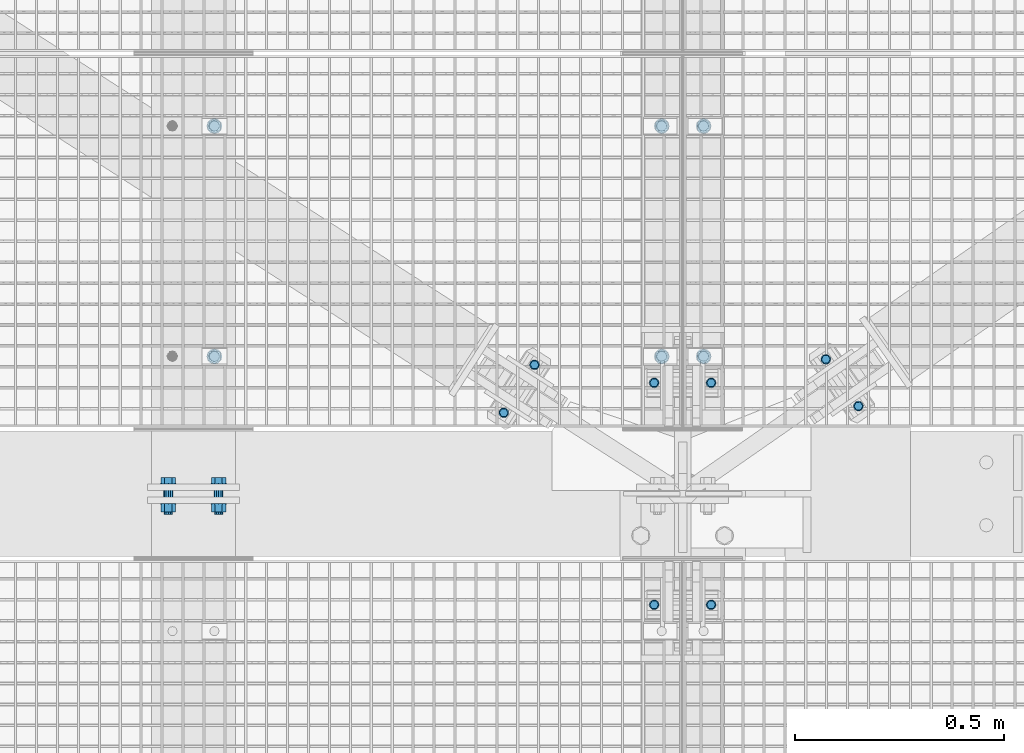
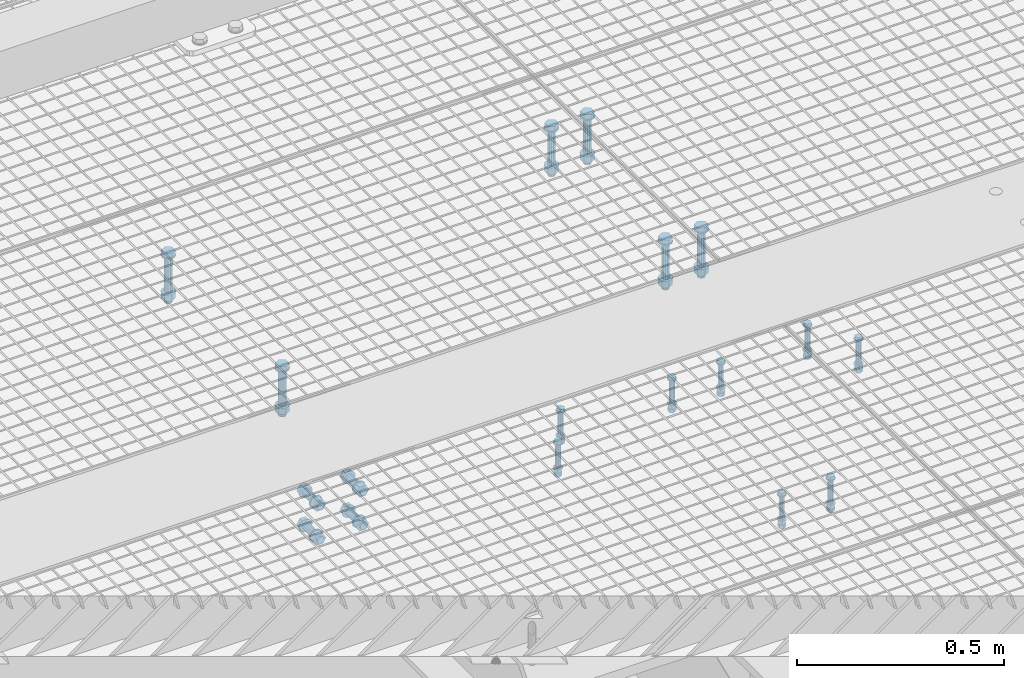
# One storey, part 29 of 1530: 8 mechanical fasteners.
"""IFC2X3 building model written with IfcOpenShell, lengths in millimetres."""

from ifc_helpers import new_model, si_unit, frame, origin_with_axes, place, context, subcontext, project, spatial, faceted_brep, source, transform, mapped, material, type_object, element, save


model = new_model("IFC2X3")

# Units and contexts
model_context = context("Model", 3, precision=1e-05, world=origin_with_axes())
body_context = subcontext(model_context, "Body", "Model", "MODEL_VIEW")
ifc_project = project(units=[si_unit("LENGTHUNIT", "METRE", prefix="MILLI"), si_unit("AREAUNIT", "SQUARE_METRE"), si_unit("VOLUMEUNIT", "CUBIC_METRE"), si_unit("MASSUNIT", "GRAM", prefix="KILO"), si_unit("TIMEUNIT", "SECOND"), si_unit("PLANEANGLEUNIT", "RADIAN"), si_unit("SOLIDANGLEUNIT", "STERADIAN"), si_unit("THERMODYNAMICTEMPERATUREUNIT", "DEGREE_CELSIUS"), si_unit("LUMINOUSINTENSITYUNIT", "LUMEN")], contexts=[model_context])

# Site, building, storey
site_placement = place(None, origin_with_axes())
site = spatial("IfcSite", under=ifc_project, at=site_placement, Name="Brattvåg", CompositionType="ELEMENT")
building_placement = place(site_placement, origin_with_axes())
building = spatial("IfcBuilding", under=site, at=building_placement, Name="Undefined", CompositionType="ELEMENT")
storey_placement = place(building_placement, origin_with_axes())
storey = spatial("IfcBuildingStorey", under=building, at=storey_placement, Name="Undefined", CompositionType="ELEMENT", Elevation=0.0)

# Mechanical fasteners
ifc_material = material(Name="8")
mechanical_fastener_type = type_object("IfcMechanicalFastenerType", Name="Bolt assembly")
shared_shape_1 = source(origin_with_axes(), body_context, "Body", "Brep", [
    faceted_brep([(10.3923048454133, -9.99999999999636, 0.0), (5.19615242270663, -9.99999999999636, 9.0), (-5.19615242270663, -9.99999999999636, 9.0), (-10.3923048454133, -9.99999999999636, 1.27269028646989e-15), (-5.19615242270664, -9.99999999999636, -9.0), (5.19615242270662, -9.99999999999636, -9.0), (5.19615242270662, -2.49999999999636, -9.0), (-5.19615242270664, -2.49999999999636, -9.0), (-10.3923048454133, -2.49999999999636, 1.27269028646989e-15), (-5.19615242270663, -2.49999999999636, 9.0), (5.19615242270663, -2.49999999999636, 9.0), (10.3923048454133, -2.49999999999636, 0.0), (6.0, -2.49999999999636, 0.0), (5.19615242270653, -2.49999999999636, 3.00000000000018), (2.99999999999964, -2.49999999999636, 5.19615242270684), (-6.21801588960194e-13, -2.49999999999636, 6.0), (-3.00000000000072, -2.49999999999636, 5.19615242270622), (-5.19615242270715, -2.49999999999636, 2.9999999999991), (-6.0, -2.49999999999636, -1.24360317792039e-12), (-5.19615242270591, -2.49999999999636, -3.00000000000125), (-2.99999999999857, -2.49999999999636, -5.19615242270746), (1.85874342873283e-12, -2.49999999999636, -6.0), (3.00000000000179, -2.49999999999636, -5.1961524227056), (5.19615242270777, -2.49999999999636, -2.99999999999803), (5.19615242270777, 97.4999999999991, -2.99999999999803), (3.00000000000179, 97.4999999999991, -5.1961524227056), (1.85874342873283e-12, 97.4999999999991, -6.0), (-2.99999999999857, 97.4999999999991, -5.19615242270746), (-5.19615242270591, 97.4999999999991, -3.00000000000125), (-6.0, 97.4999999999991, -1.24360317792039e-12), (-5.19615242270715, 97.4999999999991, 2.9999999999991), (-3.00000000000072, 97.4999999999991, 5.19615242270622), (-6.21801588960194e-13, 97.4999999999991, 6.0), (2.99999999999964, 97.4999999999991, 5.19615242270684), (5.19615242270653, 97.4999999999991, 3.00000000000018), (6.0, 97.4999999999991, 0.0), (12.0, -2.49999999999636, 0.0), (10.3923048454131, -2.49999999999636, 6.00000000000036), (5.99999999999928, -2.49999999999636, 10.3923048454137), (-1.24360317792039e-12, -2.49999999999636, 12.0), (-6.00000000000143, -2.49999999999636, 10.3923048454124), (-10.3923048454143, -2.49999999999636, 5.99999999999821), (-12.0, -2.49999999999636, -2.48720635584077e-12), (-10.3923048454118, -2.49999999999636, -6.00000000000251), (-5.99999999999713, -2.49999999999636, -10.3923048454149), (3.71748685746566e-12, -2.49999999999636, -12.0), (6.00000000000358, -2.49999999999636, -10.3923048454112), (10.3923048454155, -2.49999999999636, -5.99999999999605), (10.3923048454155, 3.63797880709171e-12, -5.99999999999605), (6.00000000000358, 3.63797880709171e-12, -10.3923048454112), (3.71748685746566e-12, 3.63797880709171e-12, -12.0), (-5.99999999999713, 3.63797880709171e-12, -10.3923048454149), (-10.3923048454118, 3.63797880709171e-12, -6.00000000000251), (-12.0, 3.63797880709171e-12, -2.48720635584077e-12), (-10.3923048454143, 3.63797880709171e-12, 5.99999999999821), (-6.00000000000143, 3.63797880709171e-12, 10.3923048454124), (-1.24360317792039e-12, 3.63797880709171e-12, 12.0), (5.99999999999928, 3.63797880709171e-12, 10.3923048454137), (10.3923048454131, 3.63797880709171e-12, 6.00000000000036), (12.0, 3.63797880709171e-12, 0.0), (12.0, 69.9999999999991, 0.0), (10.3923048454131, 69.9999999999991, 6.00000000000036), (5.99999999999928, 69.9999999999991, 10.3923048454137), (-1.24360317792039e-12, 69.9999999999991, 12.0), (-6.00000000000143, 69.9999999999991, 10.3923048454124), (-10.3923048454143, 69.9999999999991, 5.99999999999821), (-12.0, 69.9999999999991, -2.48720635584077e-12), (-10.3923048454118, 69.9999999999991, -6.00000000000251), (-5.99999999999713, 69.9999999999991, -10.3923048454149), (3.71748685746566e-12, 69.9999999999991, -12.0), (6.00000000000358, 69.9999999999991, -10.3923048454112), (10.3923048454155, 69.9999999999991, -5.99999999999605), (10.3923048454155, 72.4999999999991, -5.99999999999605), (6.00000000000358, 72.4999999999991, -10.3923048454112), (3.71748685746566e-12, 72.4999999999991, -12.0), (-5.99999999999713, 72.4999999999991, -10.3923048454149), (-10.3923048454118, 72.4999999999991, -6.00000000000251), (-12.0, 72.4999999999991, -2.48720635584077e-12), (-10.3923048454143, 72.4999999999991, 5.99999999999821), (-6.00000000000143, 72.4999999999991, 10.3923048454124), (-1.24360317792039e-12, 72.4999999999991, 12.0), (5.99999999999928, 72.4999999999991, 10.3923048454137), (10.3923048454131, 72.4999999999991, 6.00000000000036), (12.0, 72.4999999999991, 0.0), (10.3923048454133, 72.4999999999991, 0.0), (5.19615242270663, 72.4999999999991, 9.0), (-5.19615242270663, 72.4999999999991, 9.0), (-10.3923048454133, 72.4999999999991, 1.27269028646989e-15), (-5.19615242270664, 72.4999999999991, -9.0), (5.19615242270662, 72.4999999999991, -9.0), (5.19615242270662, 83.300000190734, -9.0), (-5.19615242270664, 83.300000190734, -9.0), (-10.3923048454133, 83.300000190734, 1.27269028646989e-15), (-5.19615242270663, 83.300000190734, 9.0), (5.19615242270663, 83.300000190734, 9.0), (10.3923048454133, 83.300000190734, 0.0), (9.0, 83.300000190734, 5.19615242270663), (6.36345143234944e-16, 83.300000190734, 10.3923048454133), (-9.0, 83.300000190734, 5.19615242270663), (-9.0, 83.300000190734, -5.19615242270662), (-1.11392563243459e-14, 83.300000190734, -10.3923048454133), (8.99999999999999, 83.300000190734, -5.19615242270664), (8.99999999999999, 94.1000003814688, -5.19615242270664), (-1.11392563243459e-14, 94.1000003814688, -10.3923048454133), (-9.0, 94.1000003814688, -5.19615242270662), (-9.0, 94.1000003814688, 5.19615242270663), (6.36345143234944e-16, 94.1000003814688, 10.3923048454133), (9.0, 94.1000003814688, 5.19615242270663)], [[[0, 1, 2, 3, 4, 5]], [[6, 7, 8, 9, 10, 11]], [[0, 11, 10, 1]], [[1, 10, 9, 2]], [[2, 9, 8, 3]], [[3, 8, 7, 4]], [[4, 7, 6, 5]], [[5, 6, 11, 0]], [[12, 13, 14, 15, 16, 17, 18, 19, 20, 21, 22, 23]], [[24, 25, 26, 27, 28, 29, 30, 31, 32, 33, 34, 35]], [[12, 35, 34, 13]], [[13, 34, 33, 14]], [[14, 33, 32, 15]], [[15, 32, 31, 16]], [[16, 31, 30, 17]], [[17, 30, 29, 18]], [[18, 29, 28, 19]], [[19, 28, 27, 20]], [[20, 27, 26, 21]], [[21, 26, 25, 22]], [[22, 25, 24, 23]], [[23, 24, 35, 12]], [[36, 37, 38, 39, 40, 41, 42, 43, 44, 45, 46, 47]], [[48, 49, 50, 51, 52, 53, 54, 55, 56, 57, 58, 59]], [[36, 59, 58, 37]], [[37, 58, 57, 38]], [[38, 57, 56, 39]], [[39, 56, 55, 40]], [[40, 55, 54, 41]], [[41, 54, 53, 42]], [[42, 53, 52, 43]], [[43, 52, 51, 44]], [[44, 51, 50, 45]], [[45, 50, 49, 46]], [[46, 49, 48, 47]], [[47, 48, 59, 36]], [[60, 61, 62, 63, 64, 65, 66, 67, 68, 69, 70, 71]], [[72, 73, 74, 75, 76, 77, 78, 79, 80, 81, 82, 83]], [[60, 83, 82, 61]], [[61, 82, 81, 62]], [[62, 81, 80, 63]], [[63, 80, 79, 64]], [[64, 79, 78, 65]], [[65, 78, 77, 66]], [[66, 77, 76, 67]], [[67, 76, 75, 68]], [[68, 75, 74, 69]], [[69, 74, 73, 70]], [[70, 73, 72, 71]], [[71, 72, 83, 60]], [[84, 85, 86, 87, 88, 89]], [[90, 91, 92, 93, 94, 95]], [[84, 95, 94, 85]], [[85, 94, 93, 86]], [[86, 93, 92, 87]], [[87, 92, 91, 88]], [[88, 91, 90, 89]], [[89, 90, 95, 84]], [[96, 97, 98, 99, 100, 101]], [[102, 103, 104, 105, 106, 107]], [[96, 107, 106, 97]], [[97, 106, 105, 98]], [[98, 105, 104, 99]], [[99, 104, 103, 100]], [[100, 103, 102, 101]], [[101, 102, 107, 96]]]),
    faceted_brep([(7.0, -9.09494701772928e-13, 0.0), (6.06217782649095, -9.09494701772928e-13, 3.50000000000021), (3.49999999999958, -9.09494701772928e-13, 6.06217782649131), (-7.25435187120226e-13, -9.09494701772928e-13, 7.0), (-3.50000000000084, -9.09494701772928e-13, 6.06217782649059), (-6.06217782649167, -9.09494701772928e-13, 3.49999999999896), (-7.0, -9.09494701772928e-13, -1.45087037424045e-12), (-6.06217782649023, -9.09494701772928e-13, -3.50000000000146), (-3.49999999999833, -9.09494701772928e-13, -6.06217782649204), (2.1685340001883e-12, -9.09494701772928e-13, -7.0), (3.50000000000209, -9.09494701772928e-13, -6.06217782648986), (6.0621778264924, -9.09494701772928e-13, -3.4999999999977), (6.0621778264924, 70.0999999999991, -3.4999999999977), (3.50000000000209, 70.0999999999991, -6.06217782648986), (2.1685340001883e-12, 70.0999999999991, -7.0), (-3.49999999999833, 70.0999999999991, -6.06217782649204), (-6.06217782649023, 70.0999999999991, -3.50000000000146), (-7.0, 70.0999999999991, -1.45087037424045e-12), (-6.06217782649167, 70.0999999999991, 3.49999999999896), (-3.50000000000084, 70.0999999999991, 6.06217782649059), (-7.25435187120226e-13, 70.0999999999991, 7.0), (3.49999999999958, 70.0999999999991, 6.06217782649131), (6.06217782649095, 70.0999999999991, 3.50000000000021), (7.0, 70.0999999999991, 0.0)], [[[0, 1, 2, 3, 4, 5, 6, 7, 8, 9, 10, 11]], [[12, 13, 14, 15, 16, 17, 18, 19, 20, 21, 22, 23]], [[0, 23, 22, 1]], [[1, 22, 21, 2]], [[2, 21, 20, 3]], [[3, 20, 19, 4]], [[4, 19, 18, 5]], [[5, 18, 17, 6]], [[6, 17, 16, 7]], [[7, 16, 15, 8]], [[8, 15, 14, 9]], [[9, 14, 13, 10]], [[10, 13, 12, 11]], [[11, 12, 23, 0]]]),
])
for number, where, z_axis, x_axis, name in (
    (1, (12181.9511285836, 5735.00000037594, -410.000000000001), (0.0, 1.0, 0.0), (1.0, 0.0, 0.0), "Bolt assembly"),
    (2, (12669.6397507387, 6209.37042032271, -410.000000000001), (-0.820625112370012, -0.571466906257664, 0.0), (-0.571466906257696, 0.820625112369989, 0.0), "Bolt assembly"),
    (3, (12317.9511285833, 6265.0, -390.000000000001), (0.0, -1.0, 0.0), (-1.0, 1.99999855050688e-09, 0.0), "Bolt assembly"),
    (4, (11896.3027973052, 6307.92325937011, -410.000000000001), (0.841459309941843, -0.540320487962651, 0.0), (-0.540320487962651, -0.841459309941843, 0.0), "Bolt assembly"),
):
    element("IfcMechanicalFastener", number, at=place(storey_placement, frame(where, z_axis=z_axis, x_axis=x_axis)), inside=storey, type_object=mechanical_fastener_type, material=ifc_material, Name=name, NominalDiameter=12.0, NominalLength=100.0, context=body_context, shape_type="MappedRepresentation", body=[
        mapped(shared_shape_1, transform((0.0, 0.0, 0.0))),
        mapped(shared_shape_1, transform((136.0, 0.0, 0.0))),
    ])
shared_shape_2 = source(origin_with_axes(), body_context, "Body", "Brep", [
    faceted_brep([(17.3205080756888, -10.5, 0.0), (8.66025403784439, -10.5, 15.0), (-8.66025403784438, -10.5, 15.0), (-17.3205080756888, -10.5, 2.12115047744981e-15), (-8.66025403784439, -10.5, -15.0), (8.66025403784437, -10.5, -15.0), (8.66025403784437, 2.0, -15.0), (-8.66025403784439, 2.0, -15.0), (-17.3205080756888, 2.0, 2.12115047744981e-15), (-8.66025403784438, 2.0, 15.0), (8.66025403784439, 2.0, 15.0), (17.3205080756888, 2.0, 0.0), (10.0, 2.0, 0.0), (8.66025403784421, 2.0, 5.0000000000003), (4.9999999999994, 2.0, 8.66025403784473), (-1.03633598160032e-12, 2.0, 10.0), (-5.00000000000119, 2.0, 8.6602540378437), (-8.66025403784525, 2.0, 4.99999999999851), (-10.0, 2.0, -2.07267196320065e-12), (-8.66025403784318, 2.0, -5.00000000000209), (-4.99999999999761, 2.0, -8.66025403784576), (3.09790571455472e-12, 2.0, -10.0), (5.00000000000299, 2.0, -8.66025403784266), (8.66025403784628, 2.0, -4.99999999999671), (8.66025403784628, 142.0, -4.99999999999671), (5.00000000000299, 142.0, -8.66025403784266), (3.09790571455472e-12, 142.0, -10.0), (-4.99999999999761, 142.0, -8.66025403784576), (-8.66025403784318, 142.0, -5.00000000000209), (-10.0, 142.0, -2.07267196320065e-12), (-8.66025403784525, 142.0, 4.99999999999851), (-5.00000000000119, 142.0, 8.6602540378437), (-1.03633598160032e-12, 142.0, 10.0), (4.9999999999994, 142.0, 8.66025403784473), (8.66025403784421, 142.0, 5.0000000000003), (10.0, 142.0, 0.0), (18.5, 2.0, 0.0), (16.0214699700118, 2.0, 9.25000000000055), (9.2499999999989, 2.0, 16.0214699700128), (-1.9172215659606e-12, 2.0, 18.5), (-9.25000000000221, 2.0, 16.0214699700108), (-16.0214699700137, 2.0, 9.24999999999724), (-18.5, 2.0, -3.83444313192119e-12), (-16.0214699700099, 2.0, -9.25000000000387), (-9.24999999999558, 2.0, -16.0214699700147), (5.73112557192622e-12, 2.0, -18.5), (9.25000000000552, 2.0, -16.0214699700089), (16.0214699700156, 2.0, -9.24999999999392), (16.0214699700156, 5.0, -9.24999999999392), (9.25000000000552, 5.0, -16.0214699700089), (5.73112557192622e-12, 5.0, -18.5), (-9.24999999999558, 5.0, -16.0214699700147), (-16.0214699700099, 5.0, -9.25000000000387), (-18.5, 5.0, -3.83444313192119e-12), (-16.0214699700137, 5.0, 9.24999999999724), (-9.25000000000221, 5.0, 16.0214699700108), (-1.9172215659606e-12, 5.0, 18.5), (9.2499999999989, 5.0, 16.0214699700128), (16.0214699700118, 5.0, 9.25000000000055), (18.5, 5.0, 0.0), (18.5, 109.998931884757, 0.0), (16.0214699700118, 109.998931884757, 9.25000000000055), (9.2499999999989, 109.998931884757, 16.0214699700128), (-1.9172215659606e-12, 109.998931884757, 18.5), (-9.25000000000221, 109.998931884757, 16.0214699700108), (-16.0214699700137, 109.998931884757, 9.24999999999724), (-18.5, 109.998931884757, -3.83444313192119e-12), (-16.0214699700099, 109.998931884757, -9.25000000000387), (-9.24999999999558, 109.998931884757, -16.0214699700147), (5.73112557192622e-12, 109.998931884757, -18.5), (9.25000000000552, 109.998931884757, -16.0214699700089), (16.0214699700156, 109.998931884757, -9.24999999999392), (16.0214699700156, 112.998931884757, -9.24999999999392), (9.25000000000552, 112.998931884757, -16.0214699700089), (5.73112557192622e-12, 112.998931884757, -18.5), (-9.24999999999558, 112.998931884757, -16.0214699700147), (-16.0214699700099, 112.998931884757, -9.25000000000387), (-18.5, 112.998931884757, -3.83444313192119e-12), (-16.0214699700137, 112.998931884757, 9.24999999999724), (-9.25000000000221, 112.998931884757, 16.0214699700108), (-1.9172215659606e-12, 112.998931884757, 18.5), (9.2499999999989, 112.998931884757, 16.0214699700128), (16.0214699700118, 112.998931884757, 9.25000000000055), (18.5, 112.998931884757, 0.0), (17.3205080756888, 112.998931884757, 0.0), (8.66025403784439, 112.998931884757, 15.0), (-8.66025403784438, 112.998931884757, 15.0), (-17.3205080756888, 112.998931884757, 2.12115047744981e-15), (-8.66025403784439, 112.998931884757, -15.0), (8.66025403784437, 112.998931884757, -15.0), (8.66025403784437, 130.998931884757, -15.0), (-8.66025403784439, 130.998931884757, -15.0), (-17.3205080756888, 130.998931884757, 2.12115047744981e-15), (-8.66025403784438, 130.998931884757, 15.0), (8.66025403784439, 130.998931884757, 15.0), (17.3205080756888, 130.998931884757, 0.0)], [[[0, 1, 2, 3, 4, 5]], [[6, 7, 8, 9, 10, 11]], [[0, 11, 10, 1]], [[1, 10, 9, 2]], [[2, 9, 8, 3]], [[3, 8, 7, 4]], [[4, 7, 6, 5]], [[5, 6, 11, 0]], [[12, 13, 14, 15, 16, 17, 18, 19, 20, 21, 22, 23]], [[24, 25, 26, 27, 28, 29, 30, 31, 32, 33, 34, 35]], [[12, 35, 34, 13]], [[13, 34, 33, 14]], [[14, 33, 32, 15]], [[15, 32, 31, 16]], [[16, 31, 30, 17]], [[17, 30, 29, 18]], [[18, 29, 28, 19]], [[19, 28, 27, 20]], [[20, 27, 26, 21]], [[21, 26, 25, 22]], [[22, 25, 24, 23]], [[23, 24, 35, 12]], [[36, 37, 38, 39, 40, 41, 42, 43, 44, 45, 46, 47]], [[48, 49, 50, 51, 52, 53, 54, 55, 56, 57, 58, 59]], [[36, 59, 58, 37]], [[37, 58, 57, 38]], [[38, 57, 56, 39]], [[39, 56, 55, 40]], [[40, 55, 54, 41]], [[41, 54, 53, 42]], [[42, 53, 52, 43]], [[43, 52, 51, 44]], [[44, 51, 50, 45]], [[45, 50, 49, 46]], [[46, 49, 48, 47]], [[47, 48, 59, 36]], [[60, 61, 62, 63, 64, 65, 66, 67, 68, 69, 70, 71]], [[72, 73, 74, 75, 76, 77, 78, 79, 80, 81, 82, 83]], [[60, 83, 82, 61]], [[61, 82, 81, 62]], [[62, 81, 80, 63]], [[63, 80, 79, 64]], [[64, 79, 78, 65]], [[65, 78, 77, 66]], [[66, 77, 76, 67]], [[67, 76, 75, 68]], [[68, 75, 74, 69]], [[69, 74, 73, 70]], [[70, 73, 72, 71]], [[71, 72, 83, 60]], [[84, 85, 86, 87, 88, 89]], [[90, 91, 92, 93, 94, 95]], [[84, 95, 94, 85]], [[85, 94, 93, 86]], [[86, 93, 92, 87]], [[87, 92, 91, 88]], [[88, 91, 90, 89]], [[89, 90, 95, 84]]]),
])
for number, where, z_axis, x_axis, name in (
    (5, (12300.0047793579, 6327.91931152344, -25.0), (-1.0, 1.99999855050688e-09, 0.0), (0.0, 1.0, 0.0), "Bolt assembly"),
    (6, (12200.0148773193, 6327.9204864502, -25.0), (-1.0, 1.99999855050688e-09, 0.0), (0.0, 1.0, 0.0), "Bolt assembly"),
    (7, (11132.0119254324, 6327.99, -25.0), (-1.0, 1.99999855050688e-09, 0.0), (0.0, 1.0, 0.0), "Bolt assembly"),
):
    element("IfcMechanicalFastener", number, at=place(storey_placement, frame(where, z_axis=z_axis, x_axis=x_axis)), inside=storey, type_object=mechanical_fastener_type, material=ifc_material, Name=name, NominalDiameter=20.0, NominalLength=140.0, context=body_context, shape_type="MappedRepresentation", body=[
        mapped(shared_shape_2, transform((0.0, 0.0, 0.0))),
        mapped(shared_shape_2, transform((549.999999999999, 0.0, 0.0))),
    ])
shared_shape_3 = source(origin_with_axes(), body_context, "Body", "Brep", [
    faceted_brep([(17.3205080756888, -15.5000000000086, 0.0), (8.66025403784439, -15.5000000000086, 15.0), (-8.66025403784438, -15.5000000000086, 15.0), (-17.3205080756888, -15.5000000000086, 2.12115047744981e-15), (-8.66025403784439, -15.5000000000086, -15.0), (8.66025403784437, -15.5000000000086, -15.0), (8.66025403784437, -3.00000000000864, -15.0), (-8.66025403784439, -3.00000000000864, -15.0), (-17.3205080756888, -3.00000000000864, 2.12115047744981e-15), (-8.66025403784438, -3.00000000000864, 15.0), (8.66025403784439, -3.00000000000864, 15.0), (17.3205080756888, -3.00000000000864, 0.0), (10.0, -3.00000000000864, 0.0), (8.66025403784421, -3.00000000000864, 5.0000000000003), (4.9999999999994, -3.00000000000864, 8.66025403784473), (-1.03633598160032e-12, -3.00000000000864, 10.0), (-5.00000000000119, -3.00000000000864, 8.6602540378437), (-8.66025403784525, -3.00000000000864, 4.99999999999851), (-10.0, -3.00000000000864, -2.07267196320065e-12), (-8.66025403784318, -3.00000000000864, -5.00000000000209), (-4.99999999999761, -3.00000000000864, -8.66025403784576), (3.09790571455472e-12, -3.00000000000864, -10.0), (5.00000000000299, -3.00000000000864, -8.66025403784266), (8.66025403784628, -3.00000000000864, -4.99999999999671), (8.66025403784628, 72.0, -4.99999999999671), (5.00000000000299, 72.0, -8.66025403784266), (3.09790571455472e-12, 72.0, -10.0), (-4.99999999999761, 72.0, -8.66025403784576), (-8.66025403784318, 72.0, -5.00000000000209), (-10.0, 72.0, -2.07267196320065e-12), (-8.66025403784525, 72.0, 4.99999999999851), (-5.00000000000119, 72.0, 8.6602540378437), (-1.03633598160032e-12, 72.0, 10.0), (4.9999999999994, 72.0, 8.66025403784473), (8.66025403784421, 72.0, 5.0000000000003), (10.0, 72.0, 0.0), (18.5, -3.00000000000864, 0.0), (16.0214699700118, -3.00000000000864, 9.25000000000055), (9.2499999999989, -3.00000000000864, 16.0214699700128), (-1.9172215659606e-12, -3.00000000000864, 18.5), (-9.25000000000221, -3.00000000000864, 16.0214699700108), (-16.0214699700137, -3.00000000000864, 9.24999999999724), (-18.5, -3.00000000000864, -3.83444313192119e-12), (-16.0214699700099, -3.00000000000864, -9.25000000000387), (-9.24999999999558, -3.00000000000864, -16.0214699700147), (5.73112557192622e-12, -3.00000000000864, -18.5), (9.25000000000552, -3.00000000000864, -16.0214699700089), (16.0214699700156, -3.00000000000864, -9.24999999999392), (16.0214699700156, -8.64019966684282e-12, -9.24999999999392), (9.25000000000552, -8.64019966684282e-12, -16.0214699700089), (5.73112557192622e-12, -8.64019966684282e-12, -18.5), (-9.24999999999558, -8.64019966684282e-12, -16.0214699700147), (-16.0214699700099, -8.64019966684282e-12, -9.25000000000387), (-18.5, -8.64019966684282e-12, -3.83444313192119e-12), (-16.0214699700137, -8.64019966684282e-12, 9.24999999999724), (-9.25000000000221, -8.64019966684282e-12, 16.0214699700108), (-1.9172215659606e-12, -8.64019966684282e-12, 18.5), (9.2499999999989, -8.64019966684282e-12, 16.0214699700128), (16.0214699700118, -8.64019966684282e-12, 9.25000000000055), (18.5, -8.64019966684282e-12, 0.0), (18.5, 46.000061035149, 0.0), (16.0214699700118, 46.000061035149, 9.25000000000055), (9.2499999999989, 46.000061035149, 16.0214699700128), (-1.9172215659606e-12, 46.000061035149, 18.5), (-9.25000000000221, 46.000061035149, 16.0214699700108), (-16.0214699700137, 46.000061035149, 9.24999999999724), (-18.5, 46.000061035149, -3.83444313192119e-12), (-16.0214699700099, 46.000061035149, -9.25000000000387), (-9.24999999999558, 46.000061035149, -16.0214699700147), (5.73112557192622e-12, 46.000061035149, -18.5), (9.25000000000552, 46.000061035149, -16.0214699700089), (16.0214699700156, 46.000061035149, -9.24999999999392), (16.0214699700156, 49.000061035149, -9.24999999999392), (9.25000000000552, 49.000061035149, -16.0214699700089), (5.73112557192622e-12, 49.000061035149, -18.5), (-9.24999999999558, 49.000061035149, -16.0214699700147), (-16.0214699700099, 49.000061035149, -9.25000000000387), (-18.5, 49.000061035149, -3.83444313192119e-12), (-16.0214699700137, 49.000061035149, 9.24999999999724), (-9.25000000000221, 49.000061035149, 16.0214699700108), (-1.9172215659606e-12, 49.000061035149, 18.5), (9.2499999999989, 49.000061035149, 16.0214699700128), (16.0214699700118, 49.000061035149, 9.25000000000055), (18.5, 49.000061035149, 0.0), (17.3205080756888, 49.000061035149, 0.0), (8.66025403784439, 49.000061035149, 15.0), (-8.66025403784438, 49.000061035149, 15.0), (-17.3205080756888, 49.000061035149, 2.12115047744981e-15), (-8.66025403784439, 49.000061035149, -15.0), (8.66025403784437, 49.000061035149, -15.0), (8.66025403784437, 67.000061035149, -15.0), (-8.66025403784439, 67.000061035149, -15.0), (-17.3205080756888, 67.000061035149, 2.12115047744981e-15), (-8.66025403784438, 67.000061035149, 15.0), (8.66025403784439, 67.000061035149, 15.0), (17.3205080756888, 67.000061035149, 0.0)], [[[0, 1, 2, 3, 4, 5]], [[6, 7, 8, 9, 10, 11]], [[0, 11, 10, 1]], [[1, 10, 9, 2]], [[2, 9, 8, 3]], [[3, 8, 7, 4]], [[4, 7, 6, 5]], [[5, 6, 11, 0]], [[12, 13, 14, 15, 16, 17, 18, 19, 20, 21, 22, 23]], [[24, 25, 26, 27, 28, 29, 30, 31, 32, 33, 34, 35]], [[12, 35, 34, 13]], [[13, 34, 33, 14]], [[14, 33, 32, 15]], [[15, 32, 31, 16]], [[16, 31, 30, 17]], [[17, 30, 29, 18]], [[18, 29, 28, 19]], [[19, 28, 27, 20]], [[20, 27, 26, 21]], [[21, 26, 25, 22]], [[22, 25, 24, 23]], [[23, 24, 35, 12]], [[36, 37, 38, 39, 40, 41, 42, 43, 44, 45, 46, 47]], [[48, 49, 50, 51, 52, 53, 54, 55, 56, 57, 58, 59]], [[36, 59, 58, 37]], [[37, 58, 57, 38]], [[38, 57, 56, 39]], [[39, 56, 55, 40]], [[40, 55, 54, 41]], [[41, 54, 53, 42]], [[42, 53, 52, 43]], [[43, 52, 51, 44]], [[44, 51, 50, 45]], [[45, 50, 49, 46]], [[46, 49, 48, 47]], [[47, 48, 59, 36]], [[60, 61, 62, 63, 64, 65, 66, 67, 68, 69, 70, 71]], [[72, 73, 74, 75, 76, 77, 78, 79, 80, 81, 82, 83]], [[60, 83, 82, 61]], [[61, 82, 81, 62]], [[62, 81, 80, 63]], [[63, 80, 79, 64]], [[64, 79, 78, 65]], [[65, 78, 77, 66]], [[66, 77, 76, 67]], [[67, 76, 75, 68]], [[68, 75, 74, 69]], [[69, 74, 73, 70]], [[70, 73, 72, 71]], [[71, 72, 83, 60]], [[84, 85, 86, 87, 88, 89]], [[90, 91, 92, 93, 94, 95]], [[84, 95, 94, 85]], [[85, 94, 93, 86]], [[86, 93, 92, 87]], [[87, 92, 91, 88]], [[88, 91, 90, 89]], [[89, 90, 95, 84]]]),
    faceted_brep([(11.0, 0.1, 0.0), (9.52627944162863, 0.1, 5.50000000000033), (5.49999999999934, 0.1, 9.5262794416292), (-1.13996957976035e-12, 0.1, 11.0), (-5.50000000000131, 0.1, 9.52627944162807), (-9.52627944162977, 0.1, 5.49999999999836), (-11.0, 0.1, -2.27993915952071e-12), (-9.5262794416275, 0.1, -5.5000000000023), (-5.49999999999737, 0.1, -9.52627944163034), (3.40769628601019e-12, 0.1, -11.0), (5.50000000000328, 0.1, -9.52627944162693), (9.52627944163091, 0.1, -5.49999999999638), (9.52627944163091, 15.1, -5.49999999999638), (5.50000000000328, 15.1, -9.52627944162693), (3.40769628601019e-12, 15.1, -11.0), (-5.49999999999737, 15.1, -9.52627944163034), (-9.5262794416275, 15.1, -5.5000000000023), (-11.0, 15.1, -2.27993915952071e-12), (-9.52627944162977, 15.1, 5.49999999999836), (-5.50000000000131, 15.1, 9.52627944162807), (-1.13996957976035e-12, 15.1, 11.0), (5.49999999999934, 15.1, 9.5262794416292), (9.52627944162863, 15.1, 5.50000000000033), (11.0, 15.1, 0.0), (11.0, 15.0015563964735, 0.0), (9.52627944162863, 15.0015563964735, 5.50000000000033), (5.49999999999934, 15.0015563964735, 9.5262794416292), (-1.13996957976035e-12, 15.0015563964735, 11.0), (-5.50000000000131, 15.0015563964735, 9.52627944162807), (-9.52627944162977, 15.0015563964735, 5.49999999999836), (-11.0, 15.0015563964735, -2.27993915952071e-12), (-9.5262794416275, 15.0015563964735, -5.5000000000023), (-5.49999999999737, 15.0015563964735, -9.52627944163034), (3.40769628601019e-12, 15.0015563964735, -11.0), (5.50000000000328, 15.0015563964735, -9.52627944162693), (9.52627944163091, 15.0015563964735, -5.49999999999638), (9.52627944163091, 31.0015563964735, -5.49999999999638), (5.50000000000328, 31.0015563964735, -9.52627944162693), (3.40769628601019e-12, 31.0015563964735, -11.0), (-5.49999999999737, 31.0015563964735, -9.52627944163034), (-9.5262794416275, 31.0015563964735, -5.5000000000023), (-11.0, 31.0015563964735, -2.27993915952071e-12), (-9.52627944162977, 31.0015563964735, 5.49999999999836), (-5.50000000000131, 31.0015563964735, 9.52627944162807), (-1.13996957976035e-12, 31.0015563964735, 11.0), (5.49999999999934, 31.0015563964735, 9.5262794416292), (9.52627944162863, 31.0015563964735, 5.50000000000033), (11.0, 31.0015563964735, 0.0), (11.0, 30.900061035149, 0.0), (9.52627944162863, 30.900061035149, 5.50000000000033), (5.49999999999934, 30.900061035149, 9.5262794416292), (-1.13996957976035e-12, 30.900061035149, 11.0), (-5.50000000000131, 30.900061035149, 9.52627944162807), (-9.52627944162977, 30.900061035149, 5.49999999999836), (-11.0, 30.900061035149, -2.27993915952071e-12), (-9.5262794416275, 30.900061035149, -5.5000000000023), (-5.49999999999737, 30.900061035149, -9.52627944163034), (3.40769628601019e-12, 30.900061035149, -11.0), (5.50000000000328, 30.900061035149, -9.52627944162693), (9.52627944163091, 30.900061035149, -5.49999999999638), (9.52627944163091, 46.000061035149, -5.49999999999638), (5.50000000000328, 46.000061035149, -9.52627944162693), (3.40769628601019e-12, 46.000061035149, -11.0), (-5.49999999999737, 46.000061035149, -9.52627944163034), (-9.5262794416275, 46.000061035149, -5.5000000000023), (-11.0, 46.000061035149, -2.27993915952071e-12), (-9.52627944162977, 46.000061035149, 5.49999999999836), (-5.50000000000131, 46.000061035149, 9.52627944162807), (-1.13996957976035e-12, 46.000061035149, 11.0), (5.49999999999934, 46.000061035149, 9.5262794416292), (9.52627944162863, 46.000061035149, 5.50000000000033), (11.0, 46.000061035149, 0.0)], [[[0, 1, 2, 3, 4, 5, 6, 7, 8, 9, 10, 11]], [[12, 13, 14, 15, 16, 17, 18, 19, 20, 21, 22, 23]], [[0, 23, 22, 1]], [[1, 22, 21, 2]], [[2, 21, 20, 3]], [[3, 20, 19, 4]], [[4, 19, 18, 5]], [[5, 18, 17, 6]], [[6, 17, 16, 7]], [[7, 16, 15, 8]], [[8, 15, 14, 9]], [[9, 14, 13, 10]], [[10, 13, 12, 11]], [[11, 12, 23, 0]], [[24, 25, 26, 27, 28, 29, 30, 31, 32, 33, 34, 35]], [[36, 37, 38, 39, 40, 41, 42, 43, 44, 45, 46, 47]], [[24, 47, 46, 25]], [[25, 46, 45, 26]], [[26, 45, 44, 27]], [[27, 44, 43, 28]], [[28, 43, 42, 29]], [[29, 42, 41, 30]], [[30, 41, 40, 31]], [[31, 40, 39, 32]], [[32, 39, 38, 33]], [[33, 38, 37, 34]], [[34, 37, 36, 35]], [[35, 36, 47, 24]], [[48, 49, 50, 51, 52, 53, 54, 55, 56, 57, 58, 59]], [[60, 61, 62, 63, 64, 65, 66, 67, 68, 69, 70, 71]], [[48, 71, 70, 49]], [[49, 70, 69, 50]], [[50, 69, 68, 51]], [[51, 68, 67, 52]], [[52, 67, 66, 53]], [[53, 66, 65, 54]], [[54, 65, 64, 55]], [[55, 64, 63, 56]], [[56, 63, 62, 57]], [[57, 62, 61, 58]], [[58, 61, 60, 59]], [[59, 60, 71, 48]]]),
])
mechanical_fastener_placement = place(storey_placement, frame((11142.0019683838, 6023.00155639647, -219.998836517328), z_axis=(0.0, 0.0, 1.0), x_axis=(-1.0, 1.99999855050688e-09, 0.0)))
element("IfcMechanicalFastener", 8, at=mechanical_fastener_placement, inside=storey, type_object=mechanical_fastener_type, material=ifc_material, Name="Bolt assembly", NominalDiameter=20.0, NominalLength=75.0, context=body_context, shape_type="MappedRepresentation", body=[
    mapped(shared_shape_3, transform((0.0, 0.0, -50.0))),
    mapped(shared_shape_3, transform((120.0, 0.0, -50.0))),
    mapped(shared_shape_3, transform((0.0, 0.0, 50.0))),
    mapped(shared_shape_3, transform((120.0, 0.0, 50.0))),
])

save(model, "model.ifc")
